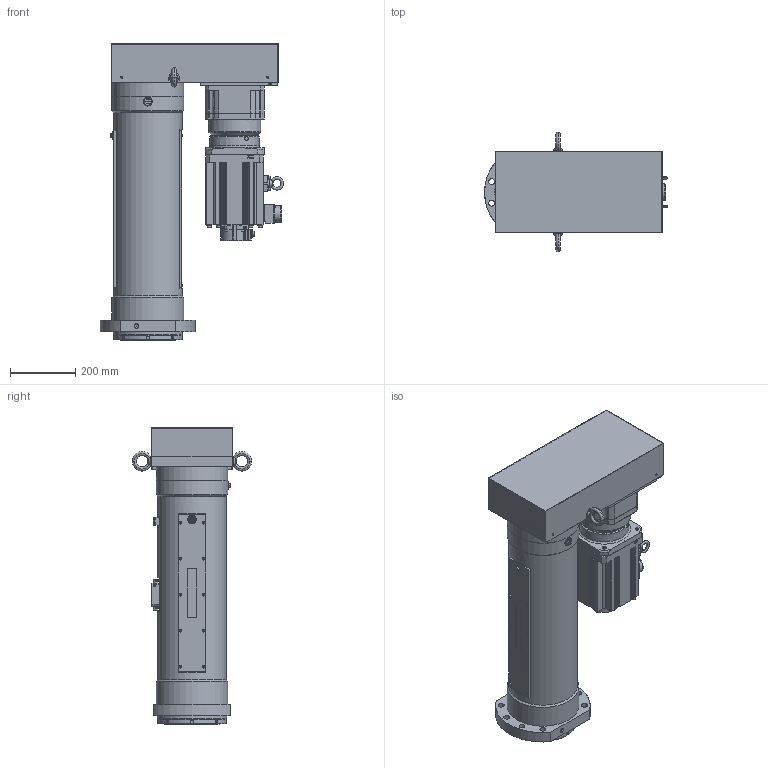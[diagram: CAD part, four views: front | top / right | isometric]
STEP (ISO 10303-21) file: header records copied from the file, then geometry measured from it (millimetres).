
FILE_DESCRIPTION( ('This file contains a STEP AP42 implementation' ,'as created by ZW3D STEP Interface translator.') ,'2;1' );
FILE_NAME( 'OACIS-DC-P150-400-200-A6_V20.01.stp' ,'25 3 8.101236', (''), ('ZWCAD Software Co.'), 'Version 1.0', 'ZW3D to STEP translator', '' );
FILE_SCHEMA(('AUTOMOTIVE_DESIGN { 1 0 10303 214 1 1 1 1 }'));
Length unit declared in the file: millimetre
Products named in the file (2): 0; OACIS-DC-P150-400-200-A6_V20.01
Bounding box: 559.83 x 365 x 905.5 mm (x, y, z)
Volume: 30505115.8 mm3; surface area: 3772099.1 mm2
Topology: 22 solids, 30 shells, 2833 faces, 7248 edges, 4684 vertices
Faces by surface type: plane 1096, cylinder 932, bspline 474, cone 230, torus 59, sphere 42
Full cylindrical faces by diameter (mm): 1.567 x4, 3 x4, 3.3 x62, 4.2 x32, 4.3 x8, 4.5 x20, 5 x4, 5.5 x8, 5.8 x2, 6 x4, 6.5 x2, 6.647 x12, 6.8 x4, 7 x8, 7.2 x2, 7.24 x2, 7.8 x2, 8 x36, 8.5 x29, 8.8 x4, 9 x10, 10 x6, 10.2 x24, 11 x15, 12 x1, 13 x10, 13.5 x4, 14 x8, 14.8 x1, 15 x2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
Entity records: 108952 total; most frequent: CARTESIAN_POINT 39895, ORIENTED_EDGE 14261, DIRECTION 12980, EDGE_CURVE 7145, AXIS2_PLACEMENT_3D 4789, VERTEX_POINT 4682, EDGE_LOOP 3459, VECTOR 3402
